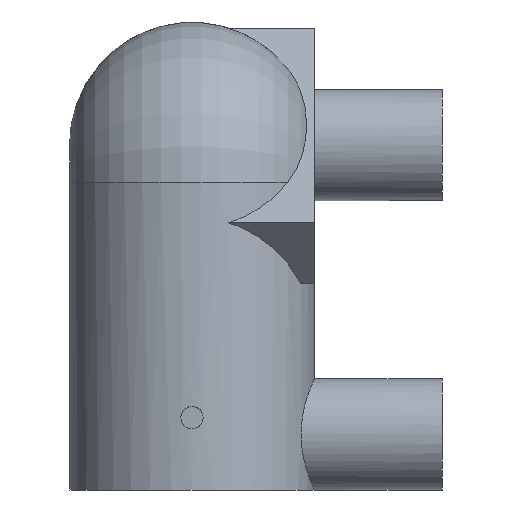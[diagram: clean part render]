
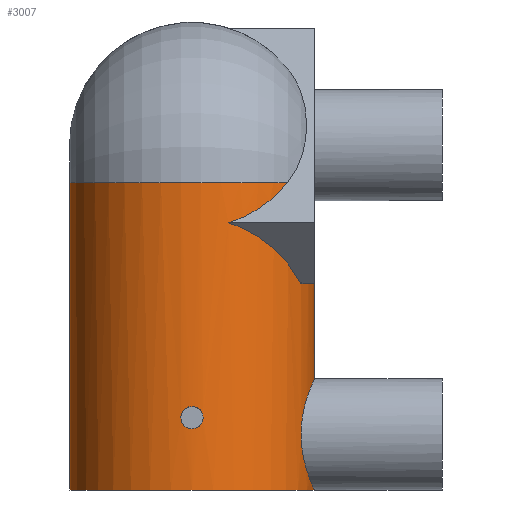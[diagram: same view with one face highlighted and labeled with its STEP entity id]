
A CAD part, left-side view. The second image highlights one B-rep face of the part: STEP entity #3007.
In plain terms, the highlighted cylindrical face has radius 22 mm (diameter 44 mm), a full revolution.
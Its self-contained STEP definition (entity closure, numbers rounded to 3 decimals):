
#423=ELLIPSE('',#3772,31.113,22.);
#424=ELLIPSE('',#3774,34.059,22.);
#425=ELLIPSE('',#3775,31.113,22.);
#426=ELLIPSE('',#3776,31.113,22.);
#427=ELLIPSE('',#3777,31.113,22.);
#561=CIRCLE('',#3767,22.);
#563=CIRCLE('',#3773,22.);
#782=ORIENTED_EDGE('',*,*,#1622,.F.);
#783=ORIENTED_EDGE('',*,*,#1623,.F.);
#784=ORIENTED_EDGE('',*,*,#1624,.F.);
#785=ORIENTED_EDGE('',*,*,#1625,.T.);
#786=ORIENTED_EDGE('',*,*,#1626,.F.);
#787=ORIENTED_EDGE('',*,*,#1627,.F.);
#788=ORIENTED_EDGE('',*,*,#1628,.F.);
#789=ORIENTED_EDGE('',*,*,#1620,.F.);
#790=ORIENTED_EDGE('',*,*,#1619,.F.);
#791=ORIENTED_EDGE('',*,*,#1618,.F.);
#1618=EDGE_CURVE('',#2046,#2046,#2334,.T.);
#1619=EDGE_CURVE('',#2046,#2046,#561,.T.);
#1620=EDGE_CURVE('',#2047,#2047,#2335,.T.);
#1622=EDGE_CURVE('',#2049,#2050,#423,.F.);
#1623=EDGE_CURVE('',#2051,#2049,#563,.F.);
#1624=EDGE_CURVE('',#2052,#2051,#2336,.F.);
#1625=EDGE_CURVE('',#2052,#2053,#424,.T.);
#1626=EDGE_CURVE('',#2054,#2053,#425,.F.);
#1627=EDGE_CURVE('',#2055,#2054,#426,.F.);
#1628=EDGE_CURVE('',#2050,#2055,#427,.F.);
#2046=VERTEX_POINT('',#5193);
#2047=VERTEX_POINT('',#5208);
#2049=VERTEX_POINT('',#5214);
#2050=VERTEX_POINT('',#5215);
#2051=VERTEX_POINT('',#5217);
#2052=VERTEX_POINT('',#5222);
#2053=VERTEX_POINT('',#5224);
#2054=VERTEX_POINT('',#5226);
#2055=VERTEX_POINT('',#5228);
#2334=B_SPLINE_CURVE_WITH_KNOTS('',3,(#5173,#5174,#5175,#5176,#5177,#5178,
#5179,#5180,#5181,#5182,#5183,#5184,#5185,#5186,#5187,#5188,#5189,#5190,
#5191,#5192),.UNSPECIFIED.,.T.,.F.,(1,1,1,1,1,1,1,1,1,1,1,1,1,1,1,1,1,1,
1,1,1,1,1,1),(-0.008,-0.004,-0.002,
0.,0.004,0.008,0.012,
0.016,0.02,0.024,0.028,
0.032,0.036,0.04,0.044,
0.048,0.051,0.055,0.059,
0.061,0.063,0.067,0.071,
0.075),.UNSPECIFIED.);
#2335=B_SPLINE_CURVE_WITH_KNOTS('',3,(#5197,#5198,#5199,#5200,#5201,#5202,
#5203,#5204,#5205,#5206,#5207),.UNSPECIFIED.,.T.,.F.,(1,1,1,1,1,1,1,1,1,
1,1,1,1,1,1),(-0.005,-0.003,-0.002,
0.,0.002,0.003,0.005,
0.006,0.008,0.009,0.011,
0.013,0.014,0.016,0.017),
 .UNSPECIFIED.);
#2336=B_SPLINE_CURVE_WITH_KNOTS('',3,(#5218,#5219,#5220,#5221),
 .UNSPECIFIED.,.F.,.F.,(4,4),(0.,0.005),
 .UNSPECIFIED.);
#2410=EDGE_LOOP('',(#782,#783,#784,#785,#786,#787,#788));
#2411=EDGE_LOOP('',(#789));
#2412=EDGE_LOOP('',(#790,#791));
#2688=FACE_BOUND('',#2410,.T.);
#2689=FACE_BOUND('',#2411,.T.);
#2690=FACE_BOUND('',#2412,.T.);
#2944=CYLINDRICAL_SURFACE('',#3771,22.);
#3007=ADVANCED_FACE('',(#2688,#2689,#2690),#2944,.T.);
#3767=AXIS2_PLACEMENT_3D('',#5195,#4193,#4194);
#3771=AXIS2_PLACEMENT_3D('',#5212,#4201,#4202);
#3772=AXIS2_PLACEMENT_3D('',#5213,#4203,#4204);
#3773=AXIS2_PLACEMENT_3D('',#5216,#4205,#4206);
#3774=AXIS2_PLACEMENT_3D('',#5223,#4207,#4208);
#3775=AXIS2_PLACEMENT_3D('',#5225,#4209,#4210);
#3776=AXIS2_PLACEMENT_3D('',#5227,#4211,#4212);
#3777=AXIS2_PLACEMENT_3D('',#5229,#4213,#4214);
#4193=DIRECTION('',(0.,0.,-1.));
#4194=DIRECTION('',(1.,0.,0.));
#4201=DIRECTION('',(0.,0.,-1.));
#4202=DIRECTION('',(-1.,0.,0.));
#4203=DIRECTION('',(-0.707,0.,0.707));
#4204=DIRECTION('',(-0.707,0.,-0.707));
#4205=DIRECTION('',(0.,0.,-1.));
#4206=DIRECTION('',(0.,-1.,0.));
#4207=DIRECTION('',(-0.763,0.,-0.646));
#4208=DIRECTION('',(0.646,0.,-0.763));
#4209=DIRECTION('',(0.707,0.,-0.707));
#4210=DIRECTION('',(-0.707,0.,-0.707));
#4211=DIRECTION('',(0.707,0.,-0.707));
#4212=DIRECTION('',(-0.707,0.,-0.707));
#4213=DIRECTION('',(-0.707,0.,-0.707));
#4214=DIRECTION('',(0.707,0.,-0.707));
#5173=CARTESIAN_POINT('',(-2.009,-21.937,0.137));
#5174=CARTESIAN_POINT('',(0.674,-22.063,-0.136));
#5175=CARTESIAN_POINT('',(3.976,-21.746,0.542));
#5176=CARTESIAN_POINT('',(7.254,-20.839,2.758));
#5177=CARTESIAN_POINT('',(9.453,-19.888,6.019));
#5178=CARTESIAN_POINT('',(10.271,-19.451,9.978));
#5179=CARTESIAN_POINT('',(9.464,-19.883,13.967));
#5180=CARTESIAN_POINT('',(7.256,-20.838,17.239));
#5181=CARTESIAN_POINT('',(3.988,-21.744,19.453));
#5182=CARTESIAN_POINT('',(0.022,-22.126,20.27));
#5183=CARTESIAN_POINT('',(-3.961,-21.75,19.467));
#5184=CARTESIAN_POINT('',(-7.25,-20.841,17.247));
#5185=CARTESIAN_POINT('',(-9.454,-19.887,13.982));
#5186=CARTESIAN_POINT('',(-10.27,-19.452,10.018));
#5187=CARTESIAN_POINT('',(-9.465,-19.882,6.04));
#5188=CARTESIAN_POINT('',(-7.26,-20.838,2.76));
#5189=CARTESIAN_POINT('',(-4.517,-21.594,0.912));
#5190=CARTESIAN_POINT('',(-2.009,-21.937,0.137));
#5191=CARTESIAN_POINT('',(0.674,-22.063,-0.136));
#5192=CARTESIAN_POINT('',(3.976,-21.746,0.542));
#5193=CARTESIAN_POINT('',(0.,-22.,0.));
#5195=CARTESIAN_POINT('',(0.,0.,0.));
#5197=CARTESIAN_POINT('',(-21.954,-1.569,14.566));
#5198=CARTESIAN_POINT('',(-22.023,0.,15.217));
#5199=CARTESIAN_POINT('',(-21.955,1.567,14.566));
#5200=CARTESIAN_POINT('',(-21.886,2.216,13.002));
#5201=CARTESIAN_POINT('',(-21.954,1.568,11.433));
#5202=CARTESIAN_POINT('',(-22.023,0.,10.784));
#5203=CARTESIAN_POINT('',(-21.955,-1.565,11.431));
#5204=CARTESIAN_POINT('',(-21.886,-2.216,12.998));
#5205=CARTESIAN_POINT('',(-21.954,-1.569,14.566));
#5206=CARTESIAN_POINT('',(-22.023,0.,15.217));
#5207=CARTESIAN_POINT('',(-21.955,1.567,14.566));
#5208=CARTESIAN_POINT('',(-22.,0.,15.));
#5212=CARTESIAN_POINT('',(0.,0.,40.25));
#5213=CARTESIAN_POINT('',(0.,0.,69.006));
#5214=CARTESIAN_POINT('',(-13.756,-17.169,55.25));
#5215=CARTESIAN_POINT('',(-21.004,-6.545,48.002));
#5216=CARTESIAN_POINT('',(0.,0.,55.25));
#5217=CARTESIAN_POINT('',(0.,22.,55.25));
#5218=CARTESIAN_POINT('',(0.,22.,55.25));
#5219=CARTESIAN_POINT('',(0.008,22.,57.119));
#5220=CARTESIAN_POINT('',(0.401,22.007,58.969));
#5221=CARTESIAN_POINT('',(1.1,21.972,60.7));
#5222=CARTESIAN_POINT('',(1.1,21.972,60.7));
#5223=CARTESIAN_POINT('',(0.,0.,62.));
#5224=CARTESIAN_POINT('',(6.836,-20.911,53.921));
#5225=CARTESIAN_POINT('',(0.,0.,47.086));
#5226=CARTESIAN_POINT('',(0.,-22.,47.086));
#5227=CARTESIAN_POINT('',(0.,0.,47.086));
#5228=CARTESIAN_POINT('',(-10.044,-19.574,37.042));
#5229=CARTESIAN_POINT('',(0.,0.,26.998));
